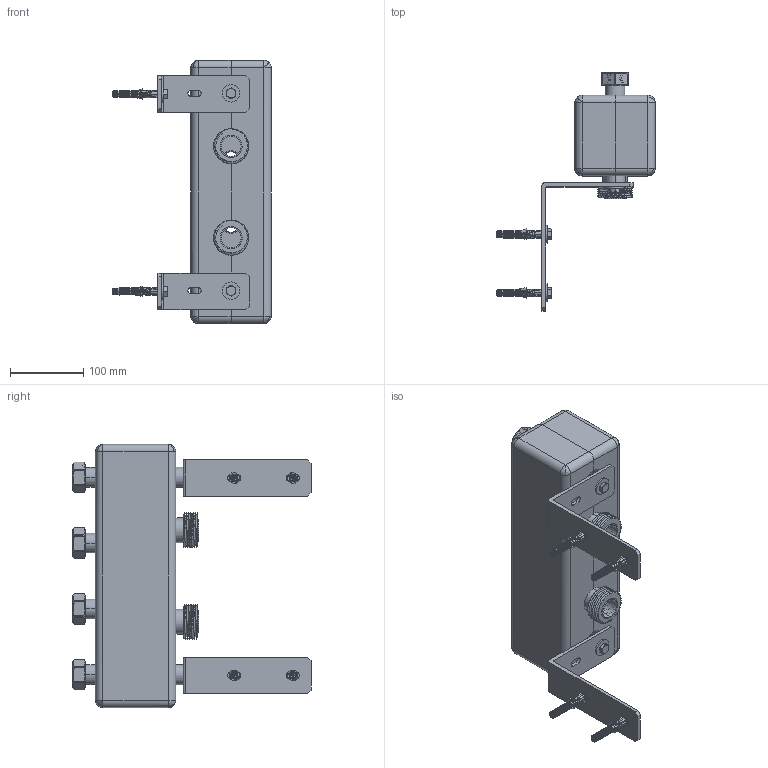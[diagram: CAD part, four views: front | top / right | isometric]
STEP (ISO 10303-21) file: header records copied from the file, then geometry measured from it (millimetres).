
FILE_DESCRIPTION (( 'STEP AP214' ), '1' );
FILE_NAME ('Rozdzielacz Bial 90mm na 2 obiegi.STEP', '2024-02-06T07:21:51', ( '' ), ( '' ), 'SwSTEP 2.0', 'SolidWorks 2022', '' );
FILE_SCHEMA (( 'AUTOMOTIVE_DESIGN' ));
Length unit declared in the file: millimetre
Products named in the file (20): 08_018_003_1; 08_013_015_1; 08_018_013_1; 08_018_007_1; SCREW_DIN_933-M8X25-8_8-A_1; 08_001_025_1; 08_018_002_1; 08_001_033_SESTAVLJEN_ASM_1; 08_018_015_1; GUMA_NOSILCA_M8_1; 08_018_005_1; 08_001_038_1; 08_001_033_1; Rozdzielacz Bial 90mm na 2 obiegi; 08_013_017_1; 08_013_004_1; DIN571_8X60_CUZN_1; DIN9021-8_1; ZIDNI_VLOZEK_10_1; 08_018_001_1
Assembly tree (39 placements, depth 3):
  Rozdzielacz Bial 90mm na 2 obiegi
    08_018_001_1
    08_018_002_1
    08_013_015_1
    08_013_004_1
    08_001_025_1  x2
    08_001_033_SESTAVLJEN_ASM_1  x2
      08_001_033_1
      DIN9021-8_1
      SCREW_DIN_933-M8X25-8_8-A_1
      GUMA_NOSILCA_M8_1
      DIN571_8X60_CUZN_1
      ZIDNI_VLOZEK_10_1
    08_013_017_1  x3
    08_018_013_1  x2
    08_018_003_1  x2
    08_018_015_1  x2
    08_018_007_1  x4
    08_018_005_1  x4
    08_001_038_1  x4
Bounding box: 216.91 x 325.8 x 360 mm (x, y, z)
Volume: 3477638.6 mm3; surface area: 740124.5 mm2
Topology: 43 solids, 51 shells, 3786 faces, 10754 edges, 7042 vertices
Faces by surface type: cylinder 1660, plane 1082, cone 840, bspline 204
Entity records: 58761 total; most frequent: CARTESIAN_POINT 22377, ORIENTED_EDGE 6562, DIRECTION 6107, EDGE_CURVE 3283, AXIS2_PLACEMENT_3D 2460, VERTEX_POINT 2149, CIRCLE 1312, EDGE_LOOP 1270
